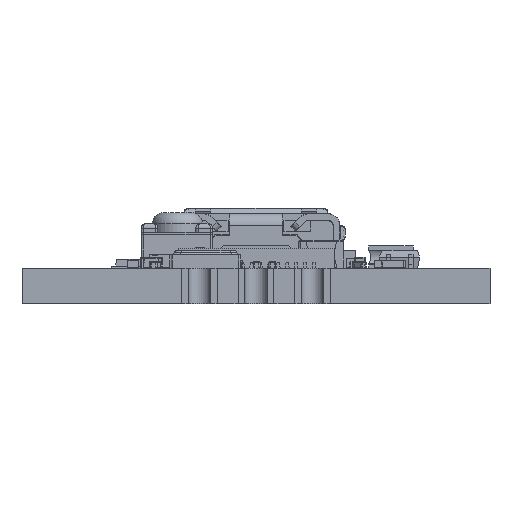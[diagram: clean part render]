
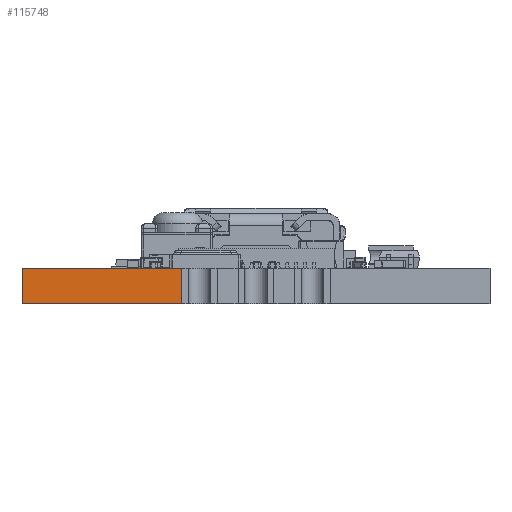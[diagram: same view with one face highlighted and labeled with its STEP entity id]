
A CAD part, front view. The second image highlights one B-rep face of the part: STEP entity #115748.
In plain terms, the highlighted planar face has unit normal (0, -1, 0).
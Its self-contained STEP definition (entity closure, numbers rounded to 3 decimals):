
#12191=FACE_OUTER_BOUND('',#19058,.T.);
#19058=EDGE_LOOP('',(#97362,#97363,#97364,#97365));
#32503=LINE('',#206579,#42914);
#32505=LINE('',#206583,#42916);
#32506=LINE('',#206585,#42917);
#32507=LINE('',#206586,#42918);
#42914=VECTOR('',#142570,10.);
#42916=VECTOR('',#142574,10.);
#42917=VECTOR('',#142575,10.);
#42918=VECTOR('',#142576,10.);
#53465=VERTEX_POINT('',#206576);
#53466=VERTEX_POINT('',#206578);
#53467=VERTEX_POINT('',#206582);
#53468=VERTEX_POINT('',#206584);
#68667=EDGE_CURVE('',#53466,#53465,#32503,.T.);
#68669=EDGE_CURVE('',#53467,#53465,#32505,.T.);
#68670=EDGE_CURVE('',#53467,#53468,#32506,.T.);
#68671=EDGE_CURVE('',#53466,#53468,#32507,.T.);
#97362=ORIENTED_EDGE('',*,*,#68667,.T.);
#97363=ORIENTED_EDGE('',*,*,#68669,.F.);
#97364=ORIENTED_EDGE('',*,*,#68670,.T.);
#97365=ORIENTED_EDGE('',*,*,#68671,.F.);
#110036=PLANE('',#123382);
#115748=ADVANCED_FACE('',(#12191),#110036,.F.);
#123382=AXIS2_PLACEMENT_3D('',#206581,#142572,#142573);
#142570=DIRECTION('',(0.,0.,1.));
#142572=DIRECTION('center_axis',(0.,1.,0.));
#142573=DIRECTION('ref_axis',(0.,0.,1.));
#142574=DIRECTION('',(1.,0.,0.));
#142575=DIRECTION('',(0.,0.,-1.));
#142576=DIRECTION('',(-1.,0.,0.));
#206576=CARTESIAN_POINT('',(-3.34,-51.,1.6));
#206578=CARTESIAN_POINT('',(-3.34,-51.,0.));
#206579=CARTESIAN_POINT('',(-3.34,-51.,0.8));
#206581=CARTESIAN_POINT('Origin',(0.,-51.,0.8));
#206582=CARTESIAN_POINT('',(-10.5,-51.,1.6));
#206583=CARTESIAN_POINT('',(0.,-51.,1.6));
#206584=CARTESIAN_POINT('',(-10.5,-51.,0.));
#206585=CARTESIAN_POINT('',(-10.5,-51.,0.8));
#206586=CARTESIAN_POINT('',(0.,-51.,0.));
